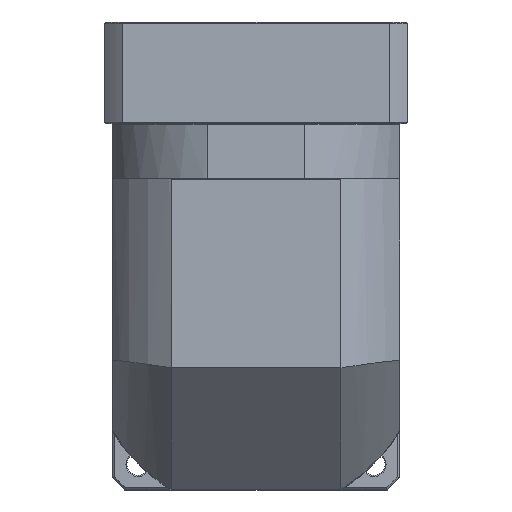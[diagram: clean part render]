
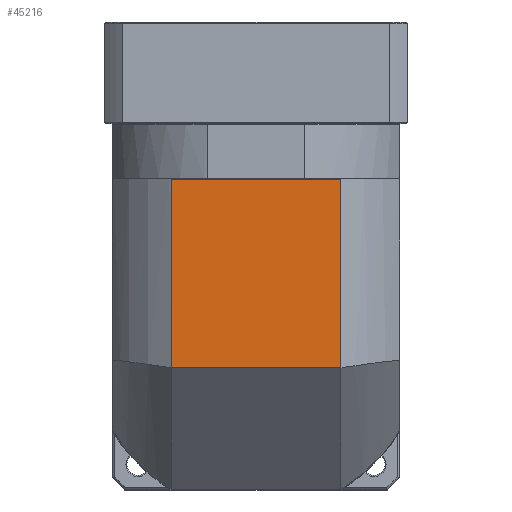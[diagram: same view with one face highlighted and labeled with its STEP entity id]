
A CAD part, top view. The second image highlights one B-rep face of the part: STEP entity #45216.
In plain terms, the highlighted planar face has unit normal (0, 0, 1).
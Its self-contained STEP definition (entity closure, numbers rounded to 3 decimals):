
#563 = LINE ( 'NONE', #126814, #30968 ) ;
#3484 = DIRECTION ( 'NONE',  ( 1., 0., 0. ) ) ;
#3700 = CARTESIAN_POINT ( 'NONE',  ( -125.586, 50.104, 57.839 ) ) ;
#5270 = CARTESIAN_POINT ( 'NONE',  ( -125.586, -203.647, 57.839 ) ) ;
#6225 = VERTEX_POINT ( 'NONE', #59907 ) ;
#12886 = ORIENTED_EDGE ( 'NONE', *, *, #18249, .F. ) ;
#18249 = EDGE_CURVE ( 'NONE', #42420, #6225, #563, .T. ) ;
#21550 = AXIS2_PLACEMENT_3D ( 'NONE', #45483, #97954, #65775 ) ;
#22504 = DIRECTION ( 'NONE',  ( 1., 0., 0. ) ) ;
#22728 = LINE ( 'NONE', #107987, #80314 ) ;
#30968 = VECTOR ( 'NONE', #3484, 1000. ) ;
#33326 = CARTESIAN_POINT ( 'NONE',  ( -125.586, 143.104, 57.839 ) ) ;
#33851 = LINE ( 'NONE', #5270, #103111 ) ;
#34673 = PLANE ( 'NONE',  #21550 ) ;
#35010 = EDGE_LOOP ( 'NONE', ( #85303, #92582, #12886, #40825 ) ) ;
#39997 = EDGE_CURVE ( 'NONE', #6225, #84998, #118121, .T. ) ;
#40825 = ORIENTED_EDGE ( 'NONE', *, *, #93030, .F. ) ;
#41970 = VERTEX_POINT ( 'NONE', #3700 ) ;
#42420 = VERTEX_POINT ( 'NONE', #33326 ) ;
#45216 = ADVANCED_FACE ( 'NONE', ( #72037 ), #34673, .F. ) ;
#45483 = CARTESIAN_POINT ( 'NONE',  ( -154.571, 143.604, 57.839 ) ) ;
#59907 = CARTESIAN_POINT ( 'NONE',  ( -41.557, 143.104, 57.839 ) ) ;
#62530 = CARTESIAN_POINT ( 'NONE',  ( -41.557, 50.104, 57.839 ) ) ;
#65775 = DIRECTION ( 'NONE',  ( 1., 0., 0. ) ) ;
#72037 = FACE_OUTER_BOUND ( 'NONE', #35010, .T. ) ;
#80314 = VECTOR ( 'NONE', #22504, 1000. ) ;
#84998 = VERTEX_POINT ( 'NONE', #62530 ) ;
#85303 = ORIENTED_EDGE ( 'NONE', *, *, #129102, .T. ) ;
#92582 = ORIENTED_EDGE ( 'NONE', *, *, #39997, .F. ) ;
#93030 = EDGE_CURVE ( 'NONE', #41970, #42420, #33851, .T. ) ;
#96400 = CARTESIAN_POINT ( 'NONE',  ( -41.557, -203.647, 57.839 ) ) ;
#97954 = DIRECTION ( 'NONE',  ( 0., 0., -1. ) ) ;
#103111 = VECTOR ( 'NONE', #103494, 1000. ) ;
#103494 = DIRECTION ( 'NONE',  ( 0., 1., 0. ) ) ;
#107302 = DIRECTION ( 'NONE',  ( 0., -1., 0. ) ) ;
#107987 = CARTESIAN_POINT ( 'NONE',  ( -154.571, 50.104, 57.839 ) ) ;
#116501 = VECTOR ( 'NONE', #107302, 1000. ) ;
#118121 = LINE ( 'NONE', #96400, #116501 ) ;
#126814 = CARTESIAN_POINT ( 'NONE',  ( -154.571, 143.104, 57.839 ) ) ;
#129102 = EDGE_CURVE ( 'NONE', #41970, #84998, #22728, .T. ) ;
